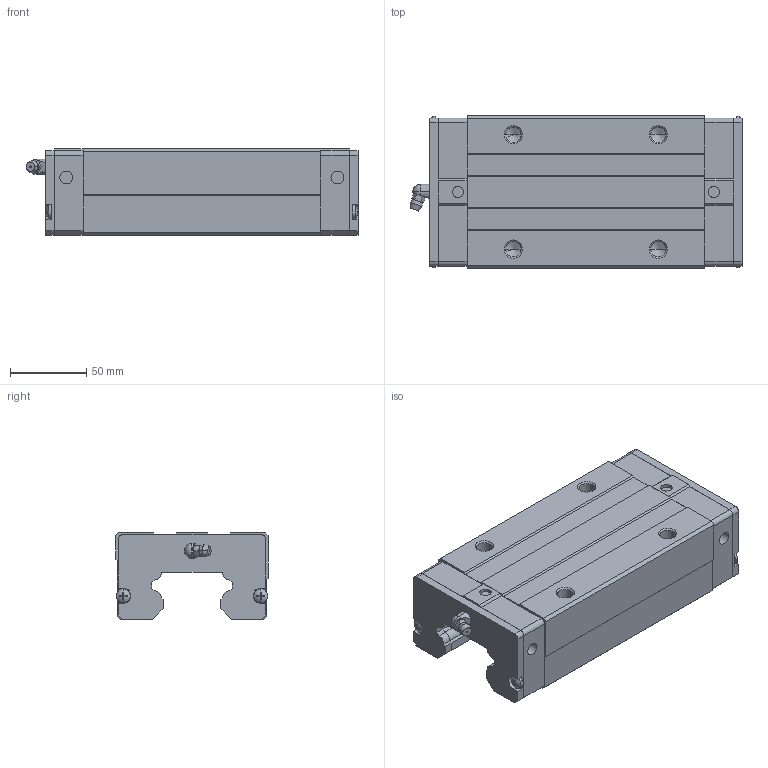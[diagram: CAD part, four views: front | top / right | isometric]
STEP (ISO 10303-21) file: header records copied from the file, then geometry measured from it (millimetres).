
FILE_DESCRIPTION(('starvars output'),'2;1');
FILE_NAME('cv20190625230019000231347.stp','23:00:19 2019/06/25',( 'Thomas Industrial Network Germany GmbH'),( 'Thomas Industrial Network Germany GmbH'),'unknown preprocess','ACIS' ,'unknown authorization');
FILE_SCHEMA(('CONFIG_CONTROL_DESIGN {UNKNOWN IMPLEMENTATION LEVEL}'));
Length unit declared in the file: millimetre
Products named in the file (10): PRODUCT_ID_1; PRODUCT_ID_2; PRODUCT_ID_3; PRODUCT_ID_4; PRODUCT_ID_5; PRODUCT_ID_6; PRODUCT_ID_7; PRODUCT_ID_8; PRODUCT_ID_9; PRODUCT_ID_10
Bounding box: 217.7 x 100 x 57 mm (x, y, z)
Volume: 847430.5 mm3; surface area: 124454.7 mm2
Topology: 10 solids, 10 shells, 392 faces, 1001 edges, 635 vertices
Faces by surface type: plane 244, cone 70, cylinder 66, sphere 12
Entity records: 11374 total; most frequent: ORIENTED_EDGE 1978, CARTESIAN_POINT 1875, DIRECTION 1563, EDGE_CURVE 989, VERTEX_POINT 635, VECTOR 629, LINE 629, AXIS2_PLACEMENT_3D 467
